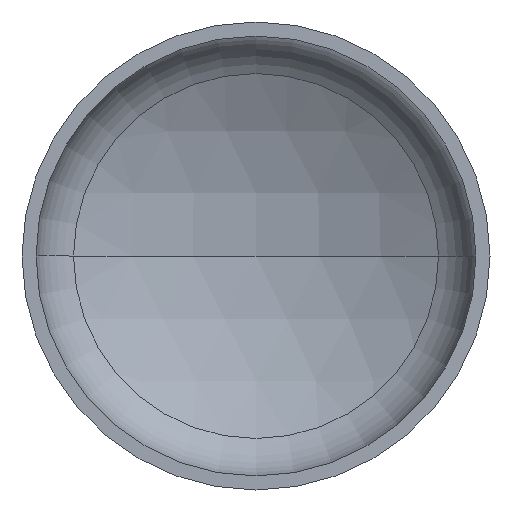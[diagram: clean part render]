
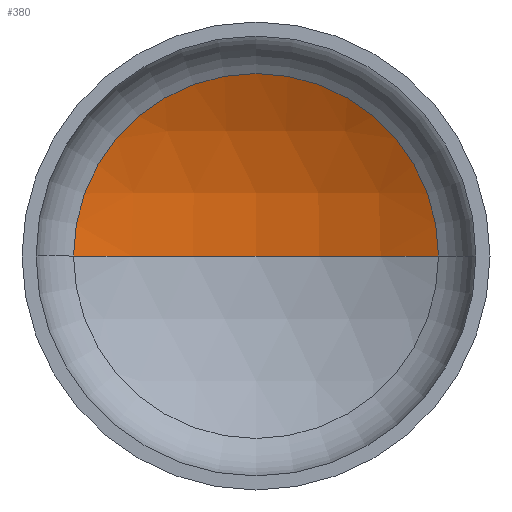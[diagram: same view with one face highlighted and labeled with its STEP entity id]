
A CAD part, front view. The second image highlights one B-rep face of the part: STEP entity #380.
In plain terms, the highlighted spherical face has radius 640 mm.
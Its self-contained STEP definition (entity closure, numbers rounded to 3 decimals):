
#1 = EDGE_LOOP ( 'NONE', ( #52, #33, #238 ) ) ;
#2 = AXIS2_PLACEMENT_3D ( 'NONE', #263, #166, #392 ) ;
#4 = DIRECTION ( 'NONE',  ( 0., 0., -1. ) ) ;
#6 = VERTEX_POINT ( 'NONE', #236 ) ;
#30 = CARTESIAN_POINT ( 'NONE',  ( 0., -374.693, 0. ) ) ;
#33 = ORIENTED_EDGE ( 'NONE', *, *, #123, .T. ) ;
#48 = AXIS2_PLACEMENT_3D ( 'NONE', #259, #286, #124 ) ;
#52 = ORIENTED_EDGE ( 'NONE', *, *, #131, .F. ) ;
#53 = AXIS2_PLACEMENT_3D ( 'NONE', #30, #4, #311 ) ;
#56 = AXIS2_PLACEMENT_3D ( 'NONE', #168, #169, #186 ) ;
#96 = VERTEX_POINT ( 'NONE', #158 ) ;
#111 = EDGE_CURVE ( 'NONE', #96, #360, #246, .T. ) ;
#123 = EDGE_CURVE ( 'NONE', #6, #96, #379, .T. ) ;
#124 = DIRECTION ( 'NONE',  ( 1., 0., 0. ) ) ;
#131 = EDGE_CURVE ( 'NONE', #6, #360, #302, .T. ) ;
#158 = CARTESIAN_POINT ( 'NONE',  ( 311.922, 184.149, 0. ) ) ;
#166 = DIRECTION ( 'NONE',  ( 0., 0., -1. ) ) ;
#168 = CARTESIAN_POINT ( 'NONE',  ( 0., 184.149, 0. ) ) ;
#169 = DIRECTION ( 'NONE',  ( 0., -1., 0. ) ) ;
#186 = DIRECTION ( 'NONE',  ( 1., 0., 0. ) ) ;
#236 = CARTESIAN_POINT ( 'NONE',  ( 0., 265.307, 0. ) ) ;
#238 = ORIENTED_EDGE ( 'NONE', *, *, #111, .T. ) ;
#246 = CIRCLE ( 'NONE', #56, 311.922 ) ;
#259 = CARTESIAN_POINT ( 'NONE',  ( 0., -374.693, 0. ) ) ;
#263 = CARTESIAN_POINT ( 'NONE',  ( 0., -374.693, 0. ) ) ;
#286 = DIRECTION ( 'NONE',  ( 0., 0., 1. ) ) ;
#302 = CIRCLE ( 'NONE', #48, 640. ) ;
#311 = DIRECTION ( 'NONE',  ( -1., 0., 0. ) ) ;
#321 = FACE_OUTER_BOUND ( 'NONE', #1, .T. ) ;
#357 = CARTESIAN_POINT ( 'NONE',  ( -311.922, 184.149, 0. ) ) ;
#360 = VERTEX_POINT ( 'NONE', #357 ) ;
#379 = CIRCLE ( 'NONE', #53, 640. ) ;
#380 = ADVANCED_FACE ( 'NONE', ( #321 ), #383, .F. ) ;
#383 = SPHERICAL_SURFACE ( 'NONE', #2, 640. ) ;
#392 = DIRECTION ( 'NONE',  ( -1., 0., 0. ) ) ;
